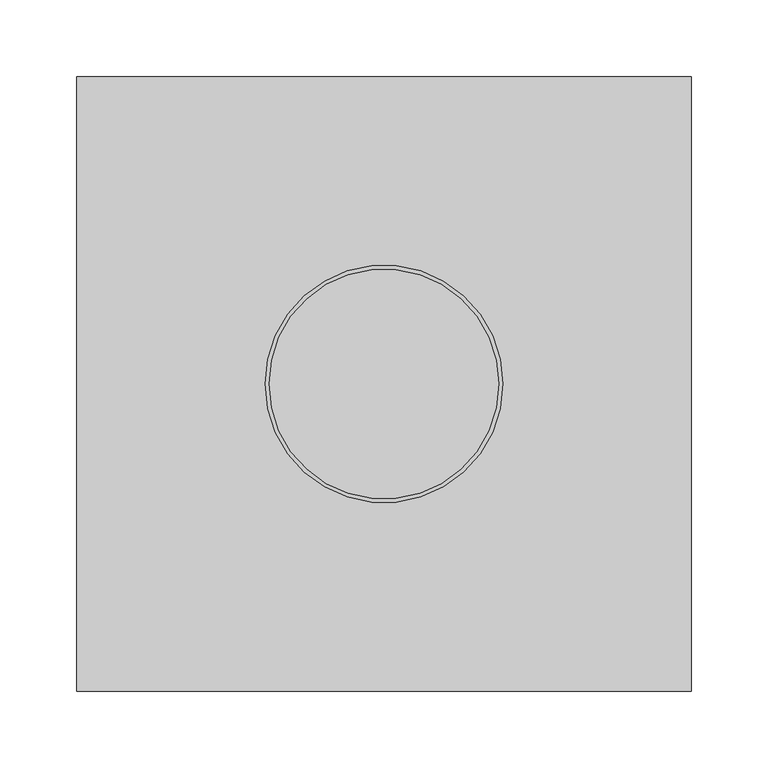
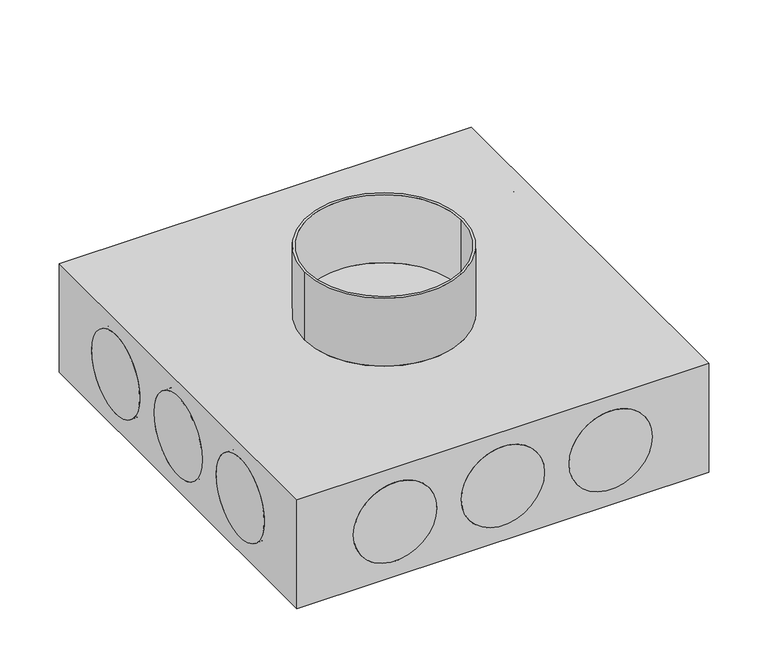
"""IFC4 building model written with IfcOpenShell, lengths in millimetres: duct fitting geometry, NLRS_57_DUF_UN_air extraction plenum square 400x400_M&G : 350#12 (H=110)."""

from ifc_helpers import new_model, si_unit, point, frame, frame_2d, origin, origin_with_axes, place, context, project, spatial, polyline, circle_curve, trimmed, segment, composite_curve, outline, extrude, source, transform, mapped, element, save
from ifc_brep_helpers import plane_surface, cylinder_surface, revolved_surface, advanced_brep


def duct_fitting_cb6fb22e(model_context):
    return source(origin(), model_context, "Body", "SolidModel", [
        extrude(outline(composite_curve([segment(trimmed(circle_curve(frame_2d((105.0, 56.0)), 40.5), [point((64.5, 56.0))], [point((145.5, 56.0))], False, "CARTESIAN"), True, "CONTINUOUS"), segment(trimmed(circle_curve(frame_2d((105.0, 56.0)), 40.5), [point((145.5, 56.0))], [point((64.5, 56.0))], False, "CARTESIAN"), True, "CONTINUOUS")], self_intersect=False)), frame((-200.5, 0.0, 0.0), z_axis=(1.0, 0.0, 0.0), x_axis=(0.0, 1.0, 0.0)), (0.0, 0.0, 1.0), 5.0),
        extrude(outline(composite_curve([segment(trimmed(circle_curve(frame_2d((0.0, 56.0)), 40.5), [point((-40.5, 56.0))], [point((40.5, 56.0))], False, "CARTESIAN"), True, "CONTINUOUS"), segment(trimmed(circle_curve(frame_2d((0.0, 56.0)), 40.5), [point((40.5, 56.0))], [point((-40.5, 56.0))], False, "CARTESIAN"), True, "CONTINUOUS")], self_intersect=False)), frame((-200.5, 0.0, 0.0), z_axis=(1.0, 0.0, 0.0), x_axis=(0.0, 1.0, 0.0)), (0.0, 0.0, 1.0), 5.0),
        extrude(outline(composite_curve([segment(trimmed(circle_curve(frame_2d((-105.0, 56.0)), 40.5), [point((-145.5, 56.0))], [point((-64.5, 56.0))], False, "CARTESIAN"), True, "CONTINUOUS"), segment(trimmed(circle_curve(frame_2d((-105.0, 56.0)), 40.5), [point((-64.5, 56.0))], [point((-145.5, 56.0))], False, "CARTESIAN"), True, "CONTINUOUS")], self_intersect=False)), frame((-200.5, 0.0, 0.0), z_axis=(1.0, 0.0, 0.0), x_axis=(0.0, 1.0, 0.0)), (0.0, 0.0, 1.0), 5.0),
        extrude(outline(composite_curve([segment(trimmed(circle_curve(frame_2d((56.0, -105.0)), 40.5), [point((56.0, -145.5))], [point((56.0, -64.5))], False, "CARTESIAN"), True, "CONTINUOUS"), segment(trimmed(circle_curve(frame_2d((56.0, -105.0)), 40.5), [point((56.0, -64.5))], [point((56.0, -145.5))], False, "CARTESIAN"), True, "CONTINUOUS")], self_intersect=False)), frame((0.0, 195.5, 0.0), z_axis=(0.0, 1.0, 0.0), x_axis=(0.0, 0.0, 1.0)), (0.0, 0.0, 1.0), 5.0),
        extrude(outline(composite_curve([segment(trimmed(circle_curve(frame_2d((56.0, 0.0)), 40.5), [point((56.0, -40.5))], [point((56.0, 40.5))], False, "CARTESIAN"), True, "CONTINUOUS"), segment(trimmed(circle_curve(frame_2d((56.0, 0.0)), 40.5), [point((56.0, 40.5))], [point((56.0, -40.5))], False, "CARTESIAN"), True, "CONTINUOUS")], self_intersect=False)), frame((0.0, 195.5, 0.0), z_axis=(0.0, 1.0, 0.0), x_axis=(0.0, 0.0, 1.0)), (0.0, 0.0, 1.0), 5.0),
        extrude(outline(composite_curve([segment(trimmed(circle_curve(frame_2d((56.0, 105.0)), 40.5), [point((56.0, 64.5))], [point((56.0, 145.5))], False, "CARTESIAN"), True, "CONTINUOUS"), segment(trimmed(circle_curve(frame_2d((56.0, 105.0)), 40.5), [point((56.0, 145.5))], [point((56.0, 64.5))], False, "CARTESIAN"), True, "CONTINUOUS")], self_intersect=False)), frame((0.0, 195.5, 0.0), z_axis=(0.0, 1.0, 0.0), x_axis=(0.0, 0.0, 1.0)), (0.0, 0.0, 1.0), 5.0),
        extrude(outline(composite_curve([segment(trimmed(circle_curve(frame_2d((56.0, -105.0)), 40.5), [point((56.0, -145.5))], [point((56.0, -64.5))], False, "CARTESIAN"), True, "CONTINUOUS"), segment(trimmed(circle_curve(frame_2d((56.0, -105.0)), 40.5), [point((56.0, -64.5))], [point((56.0, -145.5))], False, "CARTESIAN"), True, "CONTINUOUS")], self_intersect=False)), frame((0.0, -200.5, 0.0), z_axis=(0.0, 1.0, 0.0), x_axis=(0.0, 0.0, 1.0)), (0.0, 0.0, 1.0), 5.0),
        extrude(outline(composite_curve([segment(trimmed(circle_curve(frame_2d((56.0, 0.0)), 40.5), [point((56.0, -40.5))], [point((56.0, 40.5))], False, "CARTESIAN"), True, "CONTINUOUS"), segment(trimmed(circle_curve(frame_2d((56.0, 0.0)), 40.5), [point((56.0, 40.5))], [point((56.0, -40.5))], False, "CARTESIAN"), True, "CONTINUOUS")], self_intersect=False)), frame((0.0, -200.5, 0.0), z_axis=(0.0, 1.0, 0.0), x_axis=(0.0, 0.0, 1.0)), (0.0, 0.0, 1.0), 5.0),
        extrude(outline(composite_curve([segment(trimmed(circle_curve(frame_2d((56.0, 105.0)), 40.5), [point((56.0, 64.5))], [point((56.0, 145.5))], False, "CARTESIAN"), True, "CONTINUOUS"), segment(trimmed(circle_curve(frame_2d((56.0, 105.0)), 40.5), [point((56.0, 145.5))], [point((56.0, 64.5))], False, "CARTESIAN"), True, "CONTINUOUS")], self_intersect=False)), frame((0.0, -200.5, 0.0), z_axis=(0.0, 1.0, 0.0), x_axis=(0.0, 0.0, 1.0)), (0.0, 0.0, 1.0), 5.0),
        extrude(outline(composite_curve([segment(trimmed(circle_curve(frame_2d((105.0, 56.0)), 40.5), [point((64.5, 56.0))], [point((145.5, 56.0))], False, "CARTESIAN"), True, "CONTINUOUS"), segment(trimmed(circle_curve(frame_2d((105.0, 56.0)), 40.5), [point((145.5, 56.0))], [point((64.5, 56.0))], False, "CARTESIAN"), True, "CONTINUOUS")], self_intersect=False)), frame((195.5, 0.0, 0.0), z_axis=(1.0, 0.0, 0.0), x_axis=(0.0, 1.0, 0.0)), (0.0, 0.0, 1.0), 5.0),
        extrude(outline(composite_curve([segment(trimmed(circle_curve(frame_2d((0.0, 56.0)), 40.5), [point((-40.5, 56.0))], [point((40.5, 56.0))], False, "CARTESIAN"), True, "CONTINUOUS"), segment(trimmed(circle_curve(frame_2d((0.0, 56.0)), 40.5), [point((40.5, 56.0))], [point((-40.5, 56.0))], False, "CARTESIAN"), True, "CONTINUOUS")], self_intersect=False)), frame((195.5, 0.0, 0.0), z_axis=(1.0, 0.0, 0.0), x_axis=(0.0, 1.0, 0.0)), (0.0, 0.0, 1.0), 5.0),
        extrude(outline(composite_curve([segment(trimmed(circle_curve(frame_2d((-105.0, 56.0)), 40.5), [point((-145.5, 56.0))], [point((-64.5, 56.0))], False, "CARTESIAN"), True, "CONTINUOUS"), segment(trimmed(circle_curve(frame_2d((-105.0, 56.0)), 40.5), [point((-64.5, 56.0))], [point((-145.5, 56.0))], False, "CARTESIAN"), True, "CONTINUOUS")], self_intersect=False)), frame((195.5, 0.0, 0.0), z_axis=(1.0, 0.0, 0.0), x_axis=(0.0, 1.0, 0.0)), (0.0, 0.0, 1.0), 5.0),
        advanced_brep(
        [(200.5, 200.5, 112.0), (-200.5, 200.5, 112.0), (-200.5, -200.5, 112.0), (200.5, -200.5, 112.0), (-77.5, 0.0, 112.0), (77.5, 0.0, 112.0), (-75.0, 0.0, 112.0), (75.0, 0.0, 112.0), (200.5, 200.5, 0.0), (200.5, -200.5, 0.0), (-200.5, -200.5, 0.0), (-200.5, 200.5, 0.0), (-145.5, 200.5, 56.0), (-64.5, 200.5, 56.0), (-40.5, 200.5, 56.0), (40.5, 200.5, 56.0), (64.5, 200.5, 56.0), (145.5, 200.5, 56.0), (-200.5, 145.5, 56.0), (-200.5, 64.5, 56.0), (-200.5, 40.5, 56.0), (-200.5, -40.5, 56.0), (-200.5, -64.5, 56.0), (-200.5, -145.5, 56.0), (-64.5, -200.5, 56.0), (-145.5, -200.5, 56.0), (40.5, -200.5, 56.0), (-40.5, -200.5, 56.0), (145.5, -200.5, 56.0), (64.5, -200.5, 56.0), (200.5, 64.5, 56.0), (200.5, 145.5, 56.0), (200.5, -40.5, 56.0), (200.5, 40.5, 56.0), (200.5, -145.5, 56.0), (200.5, -64.5, 56.0), (-77.5, 0.0, 182.0), (77.5, 0.0, 182.0), (-75.0, 0.0, 182.0), (75.0, 0.0, 182.0), (-64.5, -194.0, 56.0), (-145.5, -194.0, 56.0), (40.5, -194.0, 56.0), (-40.5, -194.0, 56.0), (145.5, -194.0, 56.0), (64.5, -194.0, 56.0), (194.0, 64.5, 56.0), (194.0, 145.5, 56.0), (194.0, -40.5, 56.0), (194.0, 40.5, 56.0), (194.0, -145.5, 56.0), (194.0, -64.5, 56.0), (-145.5, 194.0, 56.0), (-64.5, 194.0, 56.0), (-40.5, 194.0, 56.0), (40.5, 194.0, 56.0), (64.5, 194.0, 56.0), (145.5, 194.0, 56.0), (-194.0, 64.5, 56.0), (-194.0, 145.5, 56.0), (-194.0, -40.5, 56.0), (-194.0, 40.5, 56.0), (-194.0, -145.5, 56.0), (-194.0, -64.5, 56.0)],
        [
            (0, 1),
            (1, 2),
            (2, 3),
            (3, 0),
            (4, 5, circle_curve(frame((0.0, 0.0, 112.0), z_axis=(0.0, 0.0, -1.0), x_axis=(1.0, 0.0, 0.0)), 77.5)),
            (5, 4, circle_curve(frame((0.0, 0.0, 112.0), z_axis=(0.0, 0.0, -1.0), x_axis=(1.0, 0.0, 0.0)), 77.5)),
            (6, 7, circle_curve(frame((0.0, 0.0, 112.0), z_axis=(0.0, 0.0, 1.0), x_axis=(1.0, 0.0, 0.0)), 75.0)),
            (7, 6, circle_curve(frame((0.0, 0.0, 112.0), z_axis=(0.0, 0.0, 1.0), x_axis=(1.0, 0.0, 0.0)), 75.0)),
            (8, 9),
            (9, 10),
            (10, 11),
            (11, 8),
            (0, 8),
            (11, 1),
            (12, 13, circle_curve(frame((-105.0, 200.5, 56.0), z_axis=(0.0, -1.0, 0.0), x_axis=(1.0, 0.0, 0.0)), 40.5)),
            (13, 12, circle_curve(frame((-105.0, 200.5, 56.0), z_axis=(0.0, -1.0, 0.0), x_axis=(1.0, 0.0, 0.0)), 40.5)),
            (14, 15, circle_curve(frame((0.0, 200.5, 56.0), z_axis=(0.0, -1.0, 0.0), x_axis=(1.0, 0.0, 0.0)), 40.5)),
            (15, 14, circle_curve(frame((0.0, 200.5, 56.0), z_axis=(0.0, -1.0, 0.0), x_axis=(1.0, 0.0, 0.0)), 40.5)),
            (16, 17, circle_curve(frame((105.0, 200.5, 56.0), z_axis=(0.0, -1.0, 0.0), x_axis=(1.0, 0.0, 0.0)), 40.5)),
            (17, 16, circle_curve(frame((105.0, 200.5, 56.0), z_axis=(0.0, -1.0, 0.0), x_axis=(1.0, 0.0, 0.0)), 40.5)),
            (10, 2),
            (18, 19, circle_curve(frame((-200.5, 105.0, 56.0), z_axis=(1.0, 0.0, 0.0), x_axis=(0.0, 1.0, 0.0)), 40.5)),
            (19, 18, circle_curve(frame((-200.5, 105.0, 56.0), z_axis=(1.0, 0.0, 0.0), x_axis=(0.0, 1.0, 0.0)), 40.5)),
            (20, 21, circle_curve(frame((-200.5, 0.0, 56.0), z_axis=(1.0, 0.0, 0.0), x_axis=(0.0, 1.0, 0.0)), 40.5)),
            (21, 20, circle_curve(frame((-200.5, 0.0, 56.0), z_axis=(1.0, 0.0, 0.0), x_axis=(0.0, 1.0, 0.0)), 40.5)),
            (22, 23, circle_curve(frame((-200.5, -105.0, 56.0), z_axis=(1.0, 0.0, 0.0), x_axis=(0.0, 1.0, 0.0)), 40.5)),
            (23, 22, circle_curve(frame((-200.5, -105.0, 56.0), z_axis=(1.0, 0.0, 0.0), x_axis=(0.0, 1.0, 0.0)), 40.5)),
            (9, 3),
            (24, 25, circle_curve(frame((-105.0, -200.5, 56.0), z_axis=(0.0, 1.0, 0.0), x_axis=(1.0, 0.0, 0.0)), 40.5)),
            (25, 24, circle_curve(frame((-105.0, -200.5, 56.0), z_axis=(0.0, 1.0, 0.0), x_axis=(1.0, 0.0, 0.0)), 40.5)),
            (26, 27, circle_curve(frame((0.0, -200.5, 56.0), z_axis=(0.0, 1.0, 0.0), x_axis=(1.0, 0.0, 0.0)), 40.5)),
            (27, 26, circle_curve(frame((0.0, -200.5, 56.0), z_axis=(0.0, 1.0, 0.0), x_axis=(1.0, 0.0, 0.0)), 40.5)),
            (28, 29, circle_curve(frame((105.0, -200.5, 56.0), z_axis=(0.0, 1.0, 0.0), x_axis=(1.0, 0.0, 0.0)), 40.5)),
            (29, 28, circle_curve(frame((105.0, -200.5, 56.0), z_axis=(0.0, 1.0, 0.0), x_axis=(1.0, 0.0, 0.0)), 40.5)),
            (30, 31, circle_curve(frame((200.5, 105.0, 56.0), z_axis=(-1.0, 0.0, 0.0), x_axis=(0.0, 1.0, 0.0)), 40.5)),
            (31, 30, circle_curve(frame((200.5, 105.0, 56.0), z_axis=(-1.0, 0.0, 0.0), x_axis=(0.0, 1.0, 0.0)), 40.5)),
            (32, 33, circle_curve(frame((200.5, 0.0, 56.0), z_axis=(-1.0, 0.0, 0.0), x_axis=(0.0, 1.0, 0.0)), 40.5)),
            (33, 32, circle_curve(frame((200.5, 0.0, 56.0), z_axis=(-1.0, 0.0, 0.0), x_axis=(0.0, 1.0, 0.0)), 40.5)),
            (34, 35, circle_curve(frame((200.5, -105.0, 56.0), z_axis=(-1.0, 0.0, 0.0), x_axis=(0.0, 1.0, 0.0)), 40.5)),
            (35, 34, circle_curve(frame((200.5, -105.0, 56.0), z_axis=(-1.0, 0.0, 0.0), x_axis=(0.0, 1.0, 0.0)), 40.5)),
            (36, 37, circle_curve(frame((0.0, 0.0, 182.0), z_axis=(0.0, 0.0, 1.0), x_axis=(1.0, 0.0, 0.0)), 77.5)),
            (37, 36, circle_curve(frame((0.0, 0.0, 182.0), z_axis=(0.0, 0.0, 1.0), x_axis=(1.0, 0.0, 0.0)), 77.5)),
            (38, 39, circle_curve(frame((0.0, 0.0, 182.0), z_axis=(0.0, 0.0, -1.0), x_axis=(1.0, 0.0, 0.0)), 75.0)),
            (39, 38, circle_curve(frame((0.0, 0.0, 182.0), z_axis=(0.0, 0.0, -1.0), x_axis=(1.0, 0.0, 0.0)), 75.0)),
            (39, 7),
            (6, 38),
            (37, 5),
            (4, 36),
            (40, 41, circle_curve(frame((-105.0, -194.0, 56.0), z_axis=(0.0, 1.0, 0.0), x_axis=(1.0, 0.0, 0.0)), 40.5)),
            (41, 25),
            (24, 40),
            (41, 40, circle_curve(frame((-105.0, -194.0, 56.0), z_axis=(0.0, 1.0, 0.0), x_axis=(1.0, 0.0, 0.0)), 40.5)),
            (42, 43, circle_curve(frame((0.0, -194.0, 56.0), z_axis=(0.0, 1.0, 0.0), x_axis=(1.0, 0.0, 0.0)), 40.5)),
            (43, 27),
            (26, 42),
            (43, 42, circle_curve(frame((0.0, -194.0, 56.0), z_axis=(0.0, 1.0, 0.0), x_axis=(1.0, 0.0, 0.0)), 40.5)),
            (44, 45, circle_curve(frame((105.0, -194.0, 56.0), z_axis=(0.0, 1.0, 0.0), x_axis=(1.0, 0.0, 0.0)), 40.5)),
            (45, 29),
            (28, 44),
            (45, 44, circle_curve(frame((105.0, -194.0, 56.0), z_axis=(0.0, 1.0, 0.0), x_axis=(1.0, 0.0, 0.0)), 40.5)),
            (46, 47, circle_curve(frame((194.0, 105.0, 56.0), z_axis=(-1.0, 0.0, 0.0), x_axis=(0.0, 1.0, 0.0)), 40.5)),
            (47, 31),
            (30, 46),
            (47, 46, circle_curve(frame((194.0, 105.0, 56.0), z_axis=(-1.0, 0.0, 0.0), x_axis=(0.0, 1.0, 0.0)), 40.5)),
            (48, 49, circle_curve(frame((194.0, 0.0, 56.0), z_axis=(-1.0, 0.0, 0.0), x_axis=(0.0, 1.0, 0.0)), 40.5)),
            (49, 33),
            (32, 48),
            (49, 48, circle_curve(frame((194.0, 0.0, 56.0), z_axis=(-1.0, 0.0, 0.0), x_axis=(0.0, 1.0, 0.0)), 40.5)),
            (50, 51, circle_curve(frame((194.0, -105.0, 56.0), z_axis=(-1.0, 0.0, 0.0), x_axis=(0.0, 1.0, 0.0)), 40.5)),
            (51, 35),
            (34, 50),
            (51, 50, circle_curve(frame((194.0, -105.0, 56.0), z_axis=(-1.0, 0.0, 0.0), x_axis=(0.0, 1.0, 0.0)), 40.5)),
            (52, 53, circle_curve(frame((-105.0, 194.0, 56.0), z_axis=(0.0, 1.0, 0.0), x_axis=(1.0, 0.0, 0.0)), 40.5)),
            (53, 52, circle_curve(frame((-105.0, 194.0, 56.0), z_axis=(0.0, 1.0, 0.0), x_axis=(1.0, 0.0, 0.0)), 40.5)),
            (54, 55, circle_curve(frame((0.0, 194.0, 56.0), z_axis=(0.0, 1.0, 0.0), x_axis=(1.0, 0.0, 0.0)), 40.5)),
            (55, 54, circle_curve(frame((0.0, 194.0, 56.0), z_axis=(0.0, 1.0, 0.0), x_axis=(1.0, 0.0, 0.0)), 40.5)),
            (56, 57, circle_curve(frame((105.0, 194.0, 56.0), z_axis=(0.0, 1.0, 0.0), x_axis=(1.0, 0.0, 0.0)), 40.5)),
            (57, 56, circle_curve(frame((105.0, 194.0, 56.0), z_axis=(0.0, 1.0, 0.0), x_axis=(1.0, 0.0, 0.0)), 40.5)),
            (53, 13),
            (12, 52),
            (55, 15),
            (14, 54),
            (57, 17),
            (16, 56),
            (58, 59, circle_curve(frame((-194.0, 105.0, 56.0), z_axis=(-1.0, 0.0, 0.0), x_axis=(0.0, 1.0, 0.0)), 40.5)),
            (59, 58, circle_curve(frame((-194.0, 105.0, 56.0), z_axis=(-1.0, 0.0, 0.0), x_axis=(0.0, 1.0, 0.0)), 40.5)),
            (60, 61, circle_curve(frame((-194.0, 0.0, 56.0), z_axis=(-1.0, 0.0, 0.0), x_axis=(0.0, 1.0, 0.0)), 40.5)),
            (61, 60, circle_curve(frame((-194.0, 0.0, 56.0), z_axis=(-1.0, 0.0, 0.0), x_axis=(0.0, 1.0, 0.0)), 40.5)),
            (62, 63, circle_curve(frame((-194.0, -105.0, 56.0), z_axis=(-1.0, 0.0, 0.0), x_axis=(0.0, 1.0, 0.0)), 40.5)),
            (63, 62, circle_curve(frame((-194.0, -105.0, 56.0), z_axis=(-1.0, 0.0, 0.0), x_axis=(0.0, 1.0, 0.0)), 40.5)),
            (58, 19),
            (18, 59),
            (60, 21),
            (20, 61),
            (62, 23),
            (22, 63),
        ],
        [
            plane_surface(frame((-200.5, 200.5, 112.0), z_axis=(0.0, 0.0, 1.0), x_axis=(-1.0, 0.0, 0.0))),
            plane_surface(frame((-200.5, 200.5, 0.0), z_axis=(0.0, 0.0, -1.0), x_axis=(1.0, 0.0, 0.0))),
            plane_surface(frame((200.5, 200.5, 112.0), z_axis=(0.0, 1.0, 0.0), x_axis=(0.0, 0.0, -1.0))),
            plane_surface(frame((-200.5, 200.5, 112.0), z_axis=(-1.0, 0.0, 0.0), x_axis=(0.0, 0.0, -1.0))),
            plane_surface(frame((-200.5, -200.5, 112.0), z_axis=(0.0, -1.0, 0.0), x_axis=(0.0, 0.0, -1.0))),
            plane_surface(frame((200.5, -200.5, 112.0), z_axis=(1.0, 0.0, 0.0), x_axis=(0.0, 0.0, -1.0))),
            plane_surface(frame((75.0, 0.0, 182.0), z_axis=(0.0, 0.0, 1.0), x_axis=(0.0, -1.0, 0.0))),
            revolved_surface(polyline([(75.0, 0.0, 112.0), (75.0, 0.0, 182.0)]), (0.0, 0.0, 112.0), (0.0, 0.0, -1.0)),
            cylinder_surface(origin_with_axes(), 77.5),
            revolved_surface(polyline([(-64.5, -200.5, 56.0), (-64.5, -194.0, 56.0)]), (-105.0, -194.0, 56.0), (0.0, -1.0, 0.0)),
            revolved_surface(polyline([(40.5, -200.5, 56.0), (40.5, -194.0, 56.0)]), (0.0, 0.0, 56.0), (0.0, -1.0, 0.0)),
            revolved_surface(polyline([(145.5, -200.5, 56.0), (145.5, -194.0, 56.0)]), (105.0, 0.0, 56.0), (0.0, -1.0, 0.0)),
            revolved_surface(polyline([(200.5, 145.5, 56.0), (194.0, 145.5, 56.0)]), (194.0, 105.0, 56.0), (1.0, 0.0, 0.0)),
            revolved_surface(polyline([(200.5, 40.5, 56.0), (194.0, 40.5, 56.0)]), (0.0, 0.0, 56.0), (1.0, 0.0, 0.0)),
            revolved_surface(polyline([(200.5, -64.5, 56.0), (194.0, -64.5, 56.0)]), (0.0, -105.0, 56.0), (1.0, 0.0, 0.0)),
            plane_surface(frame((-64.5, -194.0, 56.0), z_axis=(0.0, -1.0, 0.0), x_axis=(0.0, 0.0, -1.0))),
            plane_surface(frame((194.0, 145.5, 56.0), z_axis=(1.0, 0.0, 0.0), x_axis=(0.0, 0.0, -1.0))),
            plane_surface(frame((-64.5, 194.0, 56.0), z_axis=(0.0, 1.0, 0.0), x_axis=(0.0, 0.0, 1.0))),
            revolved_surface(polyline([(-64.5, 194.0, 56.0), (-64.5, 200.5, 56.0)]), (-105.0, 200.5, 56.0), (0.0, -1.0, 0.0)),
            revolved_surface(polyline([(40.5, 194.0, 56.0), (40.5, 200.5, 56.0)]), (0.0, 0.0, 56.0), (0.0, -1.0, 0.0)),
            revolved_surface(polyline([(145.5, 194.0, 56.0), (145.5, 200.5, 56.0)]), (105.0, 0.0, 56.0), (0.0, -1.0, 0.0)),
            plane_surface(frame((-194.0, 145.5, 56.0), z_axis=(-1.0, 0.0, 0.0), x_axis=(0.0, 0.0, 1.0))),
            revolved_surface(polyline([(-194.0, 145.5, 56.0), (-200.5, 145.5, 56.0)]), (-200.5, 105.0, 56.0), (1.0, 0.0, 0.0)),
            revolved_surface(polyline([(-194.0, 40.5, 56.0), (-200.5, 40.5, 56.0)]), (0.0, 0.0, 56.0), (1.0, 0.0, 0.0)),
            revolved_surface(polyline([(-194.0, -64.5, 56.0), (-200.5, -64.5, 56.0)]), (0.0, -105.0, 56.0), (1.0, 0.0, 0.0)),
        ],
        [
            (0, [[1, 2, 3, 4], [5, 6]]),
            (0, [[7, 8]]),
            (1, [[9, 10, 11, 12]]),
            (2, [[-1, 13, -12, 14], [15, 16], [17, 18], [19, 20]]),
            (3, [[-2, -14, -11, 21], [22, 23], [24, 25], [26, 27]]),
            (4, [[-3, -21, -10, 28], [29, 30], [31, 32], [33, 34]]),
            (5, [[-4, -28, -9, -13], [35, 36], [37, 38], [39, 40]]),
            (6, [[41, 42], [43, 44]]),
            (7, [[-44, 45, -7, 46]]),
            (7, [[-43, -46, -8, -45]]),
            (8, [[-42, 47, -5, 48]]),
            (8, [[-41, -48, -6, -47]]),
            (9, [[49, 50, -29, 51]]),
            (9, [[52, -51, -30, -50]]),
            (10, [[53, 54, -31, 55]]),
            (10, [[56, -55, -32, -54]]),
            (11, [[57, 58, -33, 59]]),
            (11, [[60, -59, -34, -58]]),
            (12, [[61, 62, -35, 63]]),
            (12, [[64, -63, -36, -62]]),
            (13, [[65, 66, -37, 67]]),
            (13, [[68, -67, -38, -66]]),
            (14, [[69, 70, -39, 71]]),
            (14, [[72, -71, -40, -70]]),
            (15, [[-49, -52]]),
            (15, [[-53, -56]]),
            (15, [[-57, -60]]),
            (16, [[-64, -61]]),
            (16, [[-68, -65]]),
            (16, [[-72, -69]]),
            (17, [[73, 74]]),
            (17, [[75, 76]]),
            (17, [[77, 78]]),
            (18, [[-74, 79, -15, 80]]),
            (18, [[-73, -80, -16, -79]]),
            (19, [[-76, 81, -17, 82]]),
            (19, [[-75, -82, -18, -81]]),
            (20, [[-78, 83, -19, 84]]),
            (20, [[-77, -84, -20, -83]]),
            (21, [[85, 86]]),
            (21, [[87, 88]]),
            (21, [[89, 90]]),
            (22, [[-85, 91, -22, 92]]),
            (22, [[-86, -92, -23, -91]]),
            (23, [[-87, 93, -24, 94]]),
            (23, [[-88, -94, -25, -93]]),
            (24, [[-89, 95, -26, 96]]),
            (24, [[-90, -96, -27, -95]]),
        ],
    ),
    ])


if __name__ == "__main__":
    model = new_model("IFC4")
    model_context = context("Model", 3, world=origin())
    ifc_project = project(units=[si_unit("LENGTHUNIT", "METRE", prefix="MILLI")], contexts=[model_context])
    site = spatial("IfcSite", under=ifc_project)
    building = spatial("IfcBuilding", under=site)
    placement = place(None, origin())
    duct_fitting_shape = duct_fitting_cb6fb22e(model_context)
    element("IfcDuctFitting", 1, ObjectType="NLRS_57_DUF_UN_air extraction plenum square 400x400_M&G : 350#12 (H=110)", at=placement, inside=building, context=model_context, shape_type="MappedRepresentation", body=[
        mapped(duct_fitting_shape, transform((0.0, 0.0, 0.0), x_axis=(1.0, 0.0, 0.0), y_axis=(0.0, 1.0, 0.0), z_axis=(0.0, 0.0, 1.0))),
    ])
    save(model, "model.ifc")
